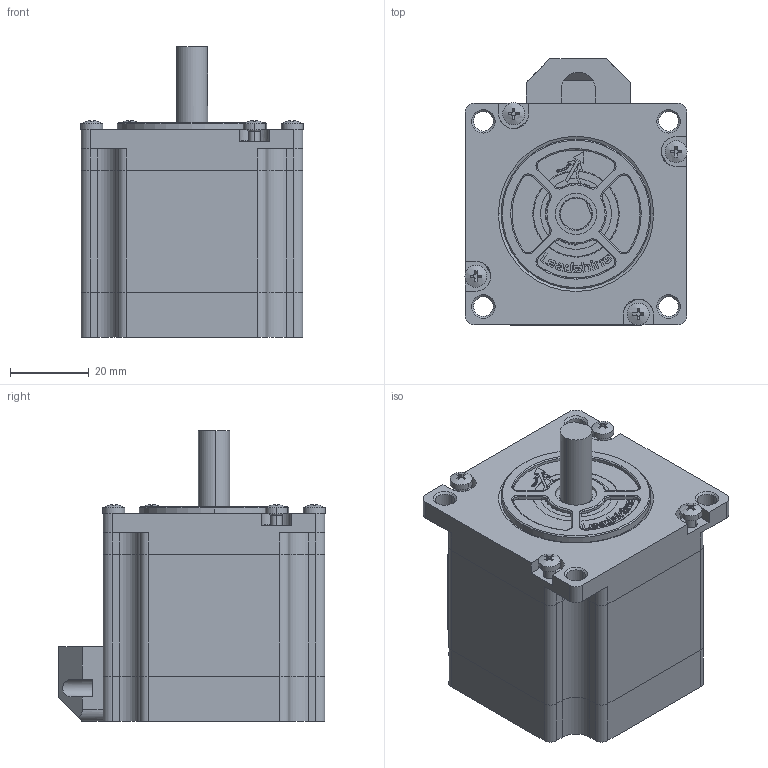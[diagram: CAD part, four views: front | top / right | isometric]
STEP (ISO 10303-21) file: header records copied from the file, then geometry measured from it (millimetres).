
FILE_DESCRIPTION (( 'STEP AP203' ), '1' );
FILE_NAME ('57CM12C-I8.STEP', '2021-04-23T01:34:07', ( 'Owner' ), ( 'Organization' ), 'SwSTEP 2.0', 'SolidWorks 2018', '' );
FILE_SCHEMA (( 'CONFIG_CONTROL_DESIGN' ));
Length unit declared in the file: millimetre
Products named in the file (15): 1_2_04_680006_3_1_Default_Default; 1_2_05_130022_3_7_Default_Default; 57CM12C-I8; 1_1_02_EB571-152_3_1_Default_Default; 1_2_05_130022_3_1_Default_Default; 1_2_05_130022_3_5_Default_Default; 3_3_1_Default_Default; 2_3_1_Default_Default; 1_2_05_130022_3_3_Default_Default; 1_2_05_130022_3_2_Default_Default; 1_2_05_130022_3_6_Default_Default; 1_2_05_130022_3_4_Default_Default; 1_2_05_130022_3_8_Default_Default; 1_1_04_EB572-359_3_1_Default_Default; 压线盖（3D)_Default_Default_Default
Assembly tree (14 placements, depth 2):
  57CM12C-I8
    1_2_05_130022_3_8_Default_Default
    1_2_05_130022_3_1_Default_Default
    1_2_05_130022_3_4_Default_Default
    1_2_05_130022_3_6_Default_Default
    1_1_02_EB571-152_3_1_Default_Default
    1_2_05_130022_3_2_Default_Default
    1_2_05_130022_3_3_Default_Default
    3_3_1_Default_Default
    1_1_04_EB572-359_3_1_Default_Default
    2_3_1_Default_Default
    1_2_05_130022_3_5_Default_Default
    压线盖（3D)_Default_Default_Default
    1_2_04_680006_3_1_Default_Default
    1_2_05_130022_3_7_Default_Default
Bounding box: 56.54 x 67.77 x 74 mm (x, y, z)
Volume: 89475.8 mm3; surface area: 48193.7 mm2
Topology: 13 solids, 18 shells, 1502 faces, 4044 edges, 2657 vertices
Faces by surface type: plane 993, cylinder 273, bspline 216, cone 20
Entity records: 55408 total; most frequent: CARTESIAN_POINT 17253, ORIENTED_EDGE 8070, DIRECTION 6727, EDGE_CURVE 4043, VECTOR 2911, LINE 2911, VERTEX_POINT 2657, AXIS2_PLACEMENT_3D 1908
